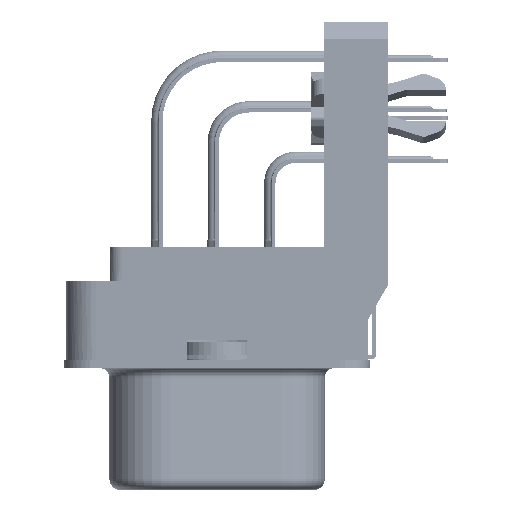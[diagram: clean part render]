
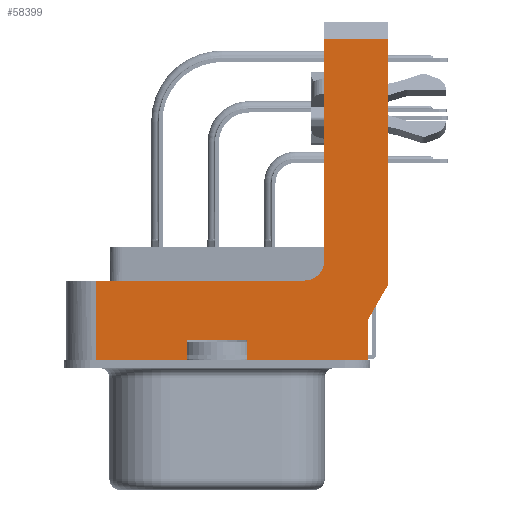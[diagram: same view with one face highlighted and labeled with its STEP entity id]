
A CAD part, left-side view. The second image highlights one B-rep face of the part: STEP entity #58399.
In plain terms, the highlighted planar face has unit normal (-1, 0, 0).
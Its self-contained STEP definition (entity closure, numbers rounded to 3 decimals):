
#52786=CIRCLE('',#173763,1.);
#58399=ADVANCED_FACE('',(#68250),#62483,.F.);
#62483=PLANE('',#173832);
#68250=FACE_OUTER_BOUND('',#75177,.T.);
#75177=EDGE_LOOP('',(#102738,#102739,#102740,#102741,#102742,#102743,#102744,
#102745,#102746,#102747,#102748,#102749,#102750));
#102738=ORIENTED_EDGE('',*,*,#135226,.F.);
#102739=ORIENTED_EDGE('',*,*,#135224,.T.);
#102740=ORIENTED_EDGE('',*,*,#135221,.T.);
#102741=ORIENTED_EDGE('',*,*,#135218,.T.);
#102742=ORIENTED_EDGE('',*,*,#135274,.F.);
#102743=ORIENTED_EDGE('',*,*,#135336,.T.);
#102744=ORIENTED_EDGE('',*,*,#135337,.T.);
#102745=ORIENTED_EDGE('',*,*,#135338,.F.);
#102746=ORIENTED_EDGE('',*,*,#135280,.F.);
#102747=ORIENTED_EDGE('',*,*,#135339,.T.);
#102748=ORIENTED_EDGE('',*,*,#135340,.T.);
#102749=ORIENTED_EDGE('',*,*,#135341,.F.);
#102750=ORIENTED_EDGE('',*,*,#135288,.F.);
#119803=VERTEX_POINT('',#240527);
#119804=VERTEX_POINT('',#240528);
#119805=VERTEX_POINT('',#240533);
#119806=VERTEX_POINT('',#240538);
#119807=VERTEX_POINT('',#240542);
#119827=VERTEX_POINT('',#240628);
#119831=VERTEX_POINT('',#240639);
#119832=VERTEX_POINT('',#240641);
#119837=VERTEX_POINT('',#240657);
#119867=VERTEX_POINT('',#240751);
#119868=VERTEX_POINT('',#240753);
#119869=VERTEX_POINT('',#240756);
#119870=VERTEX_POINT('',#240758);
#135218=EDGE_CURVE('',#119803,#119804,#52786,.T.);
#135221=EDGE_CURVE('',#119805,#119803,#147871,.T.);
#135224=EDGE_CURVE('',#119806,#119805,#147874,.T.);
#135226=EDGE_CURVE('',#119806,#119807,#147876,.T.);
#135274=EDGE_CURVE('',#119827,#119804,#147907,.T.);
#135280=EDGE_CURVE('',#119831,#119832,#147910,.T.);
#135288=EDGE_CURVE('',#119807,#119837,#147916,.T.);
#135336=EDGE_CURVE('',#119827,#119867,#147960,.T.);
#135337=EDGE_CURVE('',#119867,#119868,#147961,.T.);
#135338=EDGE_CURVE('',#119832,#119868,#147962,.T.);
#135339=EDGE_CURVE('',#119831,#119869,#147963,.T.);
#135340=EDGE_CURVE('',#119869,#119870,#147964,.T.);
#135341=EDGE_CURVE('',#119837,#119870,#147965,.T.);
#147871=LINE('',#240532,#157783);
#147874=LINE('',#240537,#157786);
#147876=LINE('',#240541,#157788);
#147907=LINE('',#240627,#157819);
#147910=LINE('',#240640,#157822);
#147916=LINE('',#240656,#157828);
#147960=LINE('',#240750,#157872);
#147961=LINE('',#240752,#157873);
#147962=LINE('',#240754,#157874);
#147963=LINE('',#240755,#157875);
#147964=LINE('',#240757,#157876);
#147965=LINE('',#240759,#157877);
#157783=VECTOR('',#198290,1.);
#157786=VECTOR('',#198295,1.);
#157788=VECTOR('',#198299,1.);
#157819=VECTOR('',#198400,1.);
#157822=VECTOR('',#198413,1.);
#157828=VECTOR('',#198429,1.);
#157872=VECTOR('',#198513,1.);
#157873=VECTOR('',#198514,1.);
#157874=VECTOR('',#198515,1.);
#157875=VECTOR('',#198516,1.);
#157876=VECTOR('',#198517,1.);
#157877=VECTOR('',#198518,1.);
#173763=AXIS2_PLACEMENT_3D('',#240526,#198284,#198285);
#173832=AXIS2_PLACEMENT_3D('',#240760,#198519,#198520);
#198284=DIRECTION('',(1.,0.,0.));
#198285=DIRECTION('',(0.,0.,-1.));
#198290=DIRECTION('',(0.,0.,-1.));
#198295=DIRECTION('',(0.,1.,0.));
#198299=DIRECTION('',(0.,0.,-1.));
#198400=DIRECTION('',(0.,-1.,0.));
#198413=DIRECTION('',(0.,1.,0.));
#198429=DIRECTION('',(0.,0.5,-0.866));
#198513=DIRECTION('',(0.,0.,-1.));
#198514=DIRECTION('',(0.,-1.,0.));
#198515=DIRECTION('',(0.,0.,-1.));
#198516=DIRECTION('',(0.,0.,-1.));
#198517=DIRECTION('',(0.,-1.,0.));
#198518=DIRECTION('',(0.,0.,-1.));
#198519=DIRECTION('',(1.,0.,0.));
#198520=DIRECTION('',(0.,0.,-1.));
#240526=CARTESIAN_POINT('',(-33.65,-4.4,5.));
#240527=CARTESIAN_POINT('',(-33.65,-5.4,5.));
#240528=CARTESIAN_POINT('',(-33.65,-4.4,4.));
#240532=CARTESIAN_POINT('',(-33.65,-5.4,0.));
#240533=CARTESIAN_POINT('',(-33.65,-5.4,16.134));
#240537=CARTESIAN_POINT('',(-33.65,6.07,16.134));
#240538=CARTESIAN_POINT('',(-33.65,-8.6,16.134));
#240541=CARTESIAN_POINT('',(-33.65,-8.6,17.));
#240542=CARTESIAN_POINT('',(-33.65,-8.6,3.784));
#240627=CARTESIAN_POINT('',(-33.65,6.07,4.));
#240628=CARTESIAN_POINT('',(-33.65,6.07,4.));
#240639=CARTESIAN_POINT('',(-33.65,-1.5,1.));
#240640=CARTESIAN_POINT('',(-33.65,-1.5,1.));
#240641=CARTESIAN_POINT('',(-33.65,1.5,1.));
#240656=CARTESIAN_POINT('',(-33.65,-8.6,3.784));
#240657=CARTESIAN_POINT('',(-33.65,-7.57,2.));
#240750=CARTESIAN_POINT('',(-33.65,6.07,4.));
#240751=CARTESIAN_POINT('',(-33.65,6.07,0.));
#240752=CARTESIAN_POINT('',(-33.65,6.07,0.));
#240753=CARTESIAN_POINT('',(-33.65,1.5,0.));
#240754=CARTESIAN_POINT('',(-33.65,1.5,1.));
#240755=CARTESIAN_POINT('',(-33.65,-1.5,1.));
#240756=CARTESIAN_POINT('',(-33.65,-1.5,0.));
#240757=CARTESIAN_POINT('',(-33.65,6.07,0.));
#240758=CARTESIAN_POINT('',(-33.65,-7.57,0.));
#240759=CARTESIAN_POINT('',(-33.65,-7.57,4.));
#240760=CARTESIAN_POINT('',(-33.65,6.07,4.));
